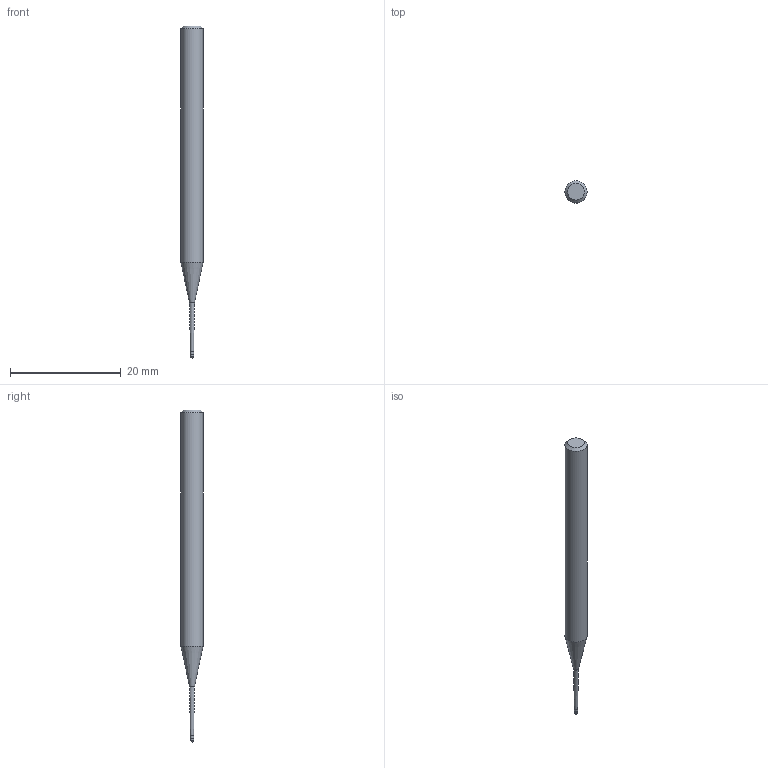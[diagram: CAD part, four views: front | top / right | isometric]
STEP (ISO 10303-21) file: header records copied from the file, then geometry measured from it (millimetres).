
FILE_DESCRIPTION((''),'2;1');
FILE_NAME('C:\Users\nsx150\AppData\Local\Temp\Mastercam 2021\SNAKH10GOD\TEMP.step','2021-10-21T13:31:27',(''),(''),'STEP Write','Mastercam 2021 ... CNC Software, Inc.','');
FILE_SCHEMA(('AUTOMOTIVE_DESIGN'));
Length unit declared in the file: millimetre
Products named in the file (1): None
Bounding box: 4 x 4 x 60 mm (x, y, z)
Volume: 578.7 mm3; surface area: 626.3 mm2
Topology: 2 solids, 2 shells, 10 faces, 16 edges, 9 vertices
Faces by surface type: plane 3, cylinder 3, cone 3, sphere 1
Full cylindrical faces by diameter (mm): 0.585 x1, 0.6 x1, 4 x1
Entity records: 232 total; most frequent: DIRECTION 40, CARTESIAN_POINT 28, AXIS2_PLACEMENT_3D 20, ORIENTED_EDGE 16, EDGE_LOOP 16, STYLED_ITEM 13, ADVANCED_FACE 10, FACE_BOUND 9
